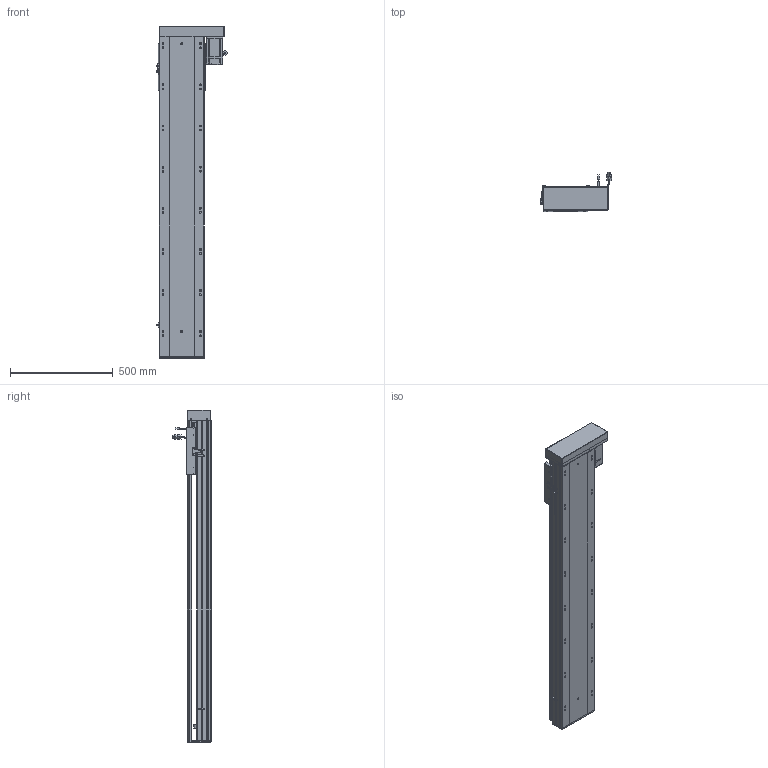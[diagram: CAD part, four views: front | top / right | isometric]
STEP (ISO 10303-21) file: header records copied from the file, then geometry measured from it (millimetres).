
FILE_DESCRIPTION (( 'STEP AP203' ), '1' );
FILE_NAME ('RY220-L2525-800-RK-邧嶺.SLDASM_1200.step', '2022-08-06T08:52:59', ( '' ), ( '' ), 'SwSTEP 2.0', 'SolidWorks 2016', '' );
FILE_SCHEMA (( 'CONFIG_CONTROL_DESIGN' ));
Length unit declared in the file: millimetre
Products named in the file (12): RY220-800-蛌殏奻裔啣_1200; 滅袉蝶18-15; 覜茼ん672; 滅袉蝶18-10; RY220-俋离672覜茼んえ; RY220綴裔啣; 怢湛750W_ECMA-CX0807ES; RY220-L2525-800-RK-邧嶺.SLDASM_1200; RY220左右折电机安装板; RY220蛌殏菁釱-800-邧嶺_1200; RY220酘衵殏萇儂欶; RY220半封闭25-32螺母铝滑块
Assembly tree (15 placements, depth 2):
  RY220-L2525-800-RK-邧嶺.SLDASM_1200
    RY220蛌殏菁釱-800-邧嶺_1200
    RY220-800-蛌殏奻裔啣_1200
    怢湛750W_ECMA-CX0807ES
    滅袉蝶18-10  x2
    RY220-俋离672覜茼んえ
    覜茼ん672  x3
    RY220綴裔啣
    RY220半封闭25-32螺母铝滑块
    滅袉蝶18-15  x2
    RY220左右折电机安装板
    RY220酘衵殏萇儂欶
Bounding box: 347.44 x 187.27 x 1614 mm (x, y, z)
Volume: 13033373.5 mm3; surface area: 3862818.2 mm2
Topology: 16 solids, 16 shells, 2213 faces, 6104 edges, 3851 vertices
Faces by surface type: cylinder 1001, plane 904, cone 238, bspline 44, sphere 16, torus 10
Entity records: 72947 total; most frequent: CARTESIAN_POINT 21073, ORIENTED_EDGE 10760, DIRECTION 10148, EDGE_CURVE 5380, AXIS2_PLACEMENT_3D 3571, VERTEX_POINT 3507, LINE 3006, VECTOR 3006
